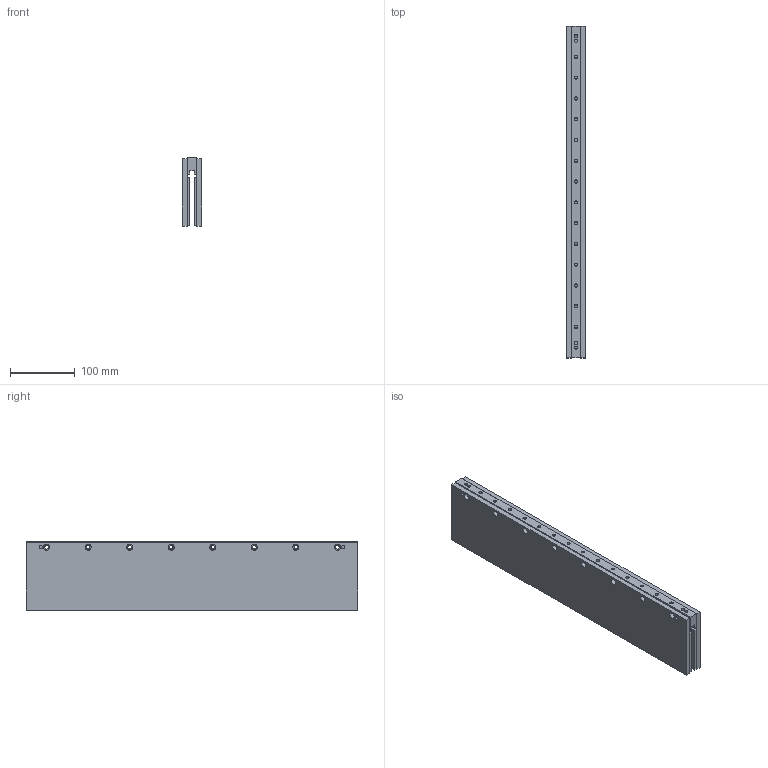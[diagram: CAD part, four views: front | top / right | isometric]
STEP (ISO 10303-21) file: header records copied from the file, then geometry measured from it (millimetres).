
FILE_DESCRIPTION((''),'2;1');
FILE_NAME('MW075-0512','2007-01-14T',('saurabh.singhal'),(''),'PRO/ENGINEER BY PARAMETRIC TECHNOLOGY CORPORATION, 2005450','PRO/ENGINEER BY PARAMETRIC TECHNOLOGY CORPORATION, 2005450','');
FILE_SCHEMA(('CONFIG_CONTROL_DESIGN'));
Length unit declared in the file: millimetre
Products named in the file (1): MW075-0512
Bounding box: 30 x 511.3 x 105.2 mm (x, y, z)
Volume: 1278382.1 mm3; surface area: 249919.5 mm2
Topology: 1 solids, 17 shells, 220 faces, 512 edges, 352 vertices
Faces by surface type: cylinder 124, plane 96
Entity records: 6483 total; most frequent: DIRECTION 1234, CARTESIAN_POINT 1085, ORIENTED_EDGE 960, EDGE_CURVE 512, AXIS2_PLACEMENT_3D 501, VERTEX_POINT 352, EDGE_LOOP 294, CIRCLE 280
